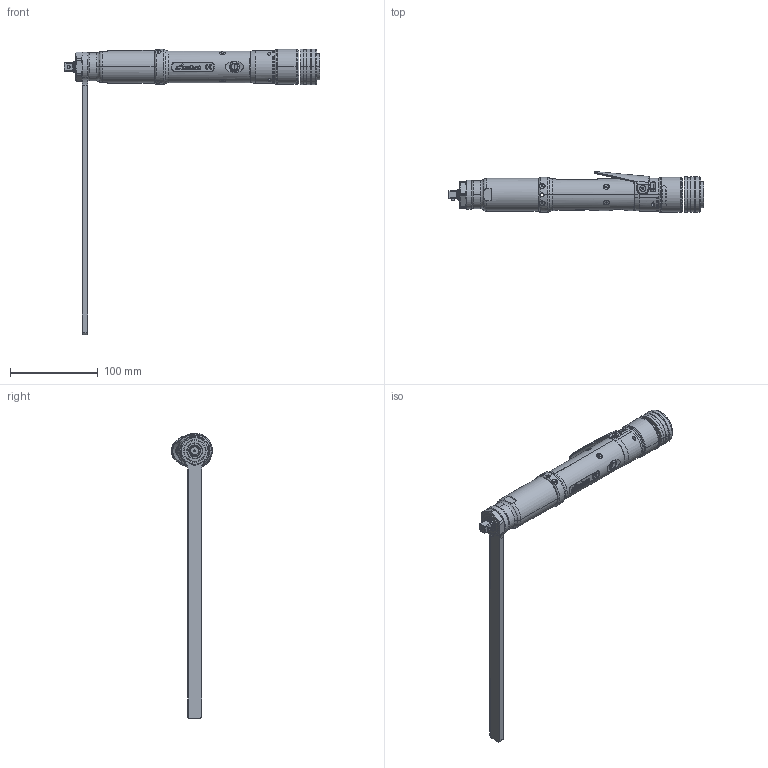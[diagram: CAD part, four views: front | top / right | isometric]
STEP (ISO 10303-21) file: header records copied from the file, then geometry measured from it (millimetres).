
FILE_DESCRIPTION (( 'STEP AP214' ), '1' );
FILE_NAME ('AES4A12011B.STEP', '2012-08-02T22:21:34', ( 'AIMCO' ), ( 'Microsoft' ), 'SwSTEP 2.0', 'SolidWorks 2012', '' );
FILE_SCHEMA (( 'AUTOMOTIVE_DESIGN' ));
Length unit declared in the file: inch
Products named in the file (1): AES4A12011B
Bounding box: 290.57 x 46.63 x 324.99 mm (x, y, z)
Surface area: 73738.9 mm2 (no closed solid volume)
Topology: 0 solids, 61 shells, 815 faces, 4190 edges, 3288 vertices
Faces by surface type: plane 289, cylinder 190, cone 173, torus 97, bspline 64, sphere 2
Entity records: 58602 total; most frequent: CARTESIAN_POINT 17321, DIRECTION 5866, ORIENTED_EDGE 5779, EDGE_CURVE 4190, VERTEX_POINT 3288, VECTOR 2312, LINE 2312, AXIS2_PLACEMENT_3D 1777
